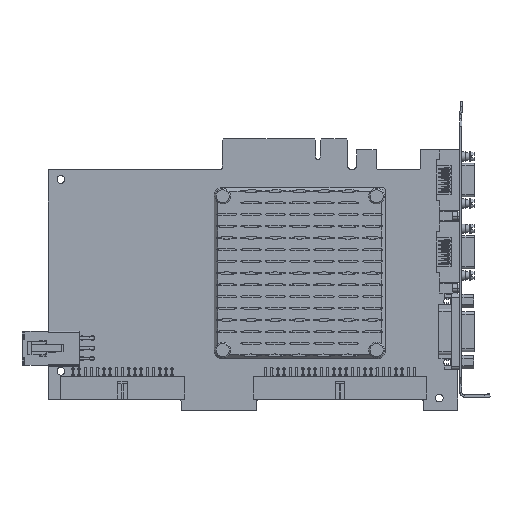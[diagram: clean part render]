
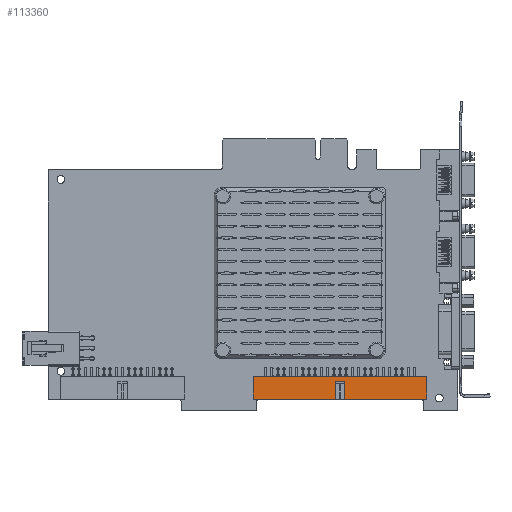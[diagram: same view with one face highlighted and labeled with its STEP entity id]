
A CAD part, top view. The second image highlights one B-rep face of the part: STEP entity #113360.
In plain terms, the highlighted planar face has unit normal (0, 0, 1).
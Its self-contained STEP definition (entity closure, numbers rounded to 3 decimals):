
#3820=DIRECTION('',(1.,0.,0.));
#3821=VECTOR('',#3820,33.528);
#3822=CARTESIAN_POINT('',(-83.69,-102.155,10.236));
#3823=LINE('',#3822,#3821);
#3852=DIRECTION('',(1.,0.,0.));
#3853=VECTOR('',#3852,33.528);
#3854=CARTESIAN_POINT('',(-46.098,-102.155,10.236));
#3855=LINE('',#3854,#3853);
#20860=DIRECTION('',(1.,0.,0.));
#20861=VECTOR('',#20860,71.12);
#20862=CARTESIAN_POINT('',(-83.69,-92.757,10.236));
#20863=LINE('',#20862,#20861);
#21768=DIRECTION('',(0.,1.,0.));
#21769=VECTOR('',#21768,9.398);
#21770=CARTESIAN_POINT('',(-12.57,-102.155,10.236));
#21771=LINE('',#21770,#21769);
#21772=DIRECTION('',(0.,1.,0.));
#21773=VECTOR('',#21772,7.366);
#21774=CARTESIAN_POINT('',(-46.098,-102.155,10.236));
#21775=LINE('',#21774,#21773);
#21776=DIRECTION('',(-1.,0.,0.));
#21777=VECTOR('',#21776,4.064);
#21778=CARTESIAN_POINT('',(-46.098,-94.789,10.236));
#21779=LINE('',#21778,#21777);
#21780=DIRECTION('',(0.,1.,0.));
#21781=VECTOR('',#21780,7.366);
#21782=CARTESIAN_POINT('',(-50.162,-102.155,10.236));
#21783=LINE('',#21782,#21781);
#21784=DIRECTION('',(0.,1.,0.));
#21785=VECTOR('',#21784,9.398);
#21786=CARTESIAN_POINT('',(-83.69,-102.155,10.236));
#21787=LINE('',#21786,#21785);
#69363=CARTESIAN_POINT('',(-83.69,-92.757,10.236));
#69364=CARTESIAN_POINT('',(-12.57,-92.757,10.236));
#69365=VERTEX_POINT('',#69363);
#69366=VERTEX_POINT('',#69364);
#69367=CARTESIAN_POINT('',(-83.69,-102.155,10.236));
#69368=VERTEX_POINT('',#69367);
#69369=CARTESIAN_POINT('',(-12.57,-102.155,10.236));
#69370=VERTEX_POINT('',#69369);
#70272=CARTESIAN_POINT('',(-46.098,-102.155,10.236));
#70274=VERTEX_POINT('',#70272);
#70276=CARTESIAN_POINT('',(-50.162,-102.155,10.236));
#70278=VERTEX_POINT('',#70276);
#70279=CARTESIAN_POINT('',(-46.098,-94.789,10.236));
#70280=VERTEX_POINT('',#70279);
#70281=CARTESIAN_POINT('',(-50.162,-94.789,10.236));
#70282=VERTEX_POINT('',#70281);
#113342=CARTESIAN_POINT('',(-83.69,-102.155,10.236));
#113343=DIRECTION('',(0.,0.,1.));
#113344=DIRECTION('',(1.,0.,0.));
#113345=AXIS2_PLACEMENT_3D('',#113342,#113343,#113344);
#113346=PLANE('',#113345);
#113348=ORIENTED_EDGE('',*,*,#113347,.T.);
#113350=ORIENTED_EDGE('',*,*,#113349,.T.);
#113352=ORIENTED_EDGE('',*,*,#113351,.F.);
#113353=ORIENTED_EDGE('',*,*,#77086,.F.);
#113354=ORIENTED_EDGE('',*,*,#112713,.T.);
#113355=ORIENTED_EDGE('',*,*,#112733,.T.);
#113356=ORIENTED_EDGE('',*,*,#113329,.F.);
#113357=ORIENTED_EDGE('',*,*,#77102,.F.);
#113358=EDGE_LOOP('',(#113348,#113350,#113352,#113353,#113354,#113355,#113356,
#113357));
#113359=FACE_OUTER_BOUND('',#113358,.F.);
#77086=EDGE_CURVE('',#69368,#70278,#3823,.T.);
#77102=EDGE_CURVE('',#70274,#69370,#3855,.T.);
#112713=EDGE_CURVE('',#69368,#69365,#21787,.T.);
#112733=EDGE_CURVE('',#69365,#69366,#20863,.T.);
#113329=EDGE_CURVE('',#69370,#69366,#21771,.T.);
#113347=EDGE_CURVE('',#70274,#70280,#21775,.T.);
#113349=EDGE_CURVE('',#70280,#70282,#21779,.T.);
#113351=EDGE_CURVE('',#70278,#70282,#21783,.T.);
#113360=ADVANCED_FACE('',(#113359),#113346,.T.);
